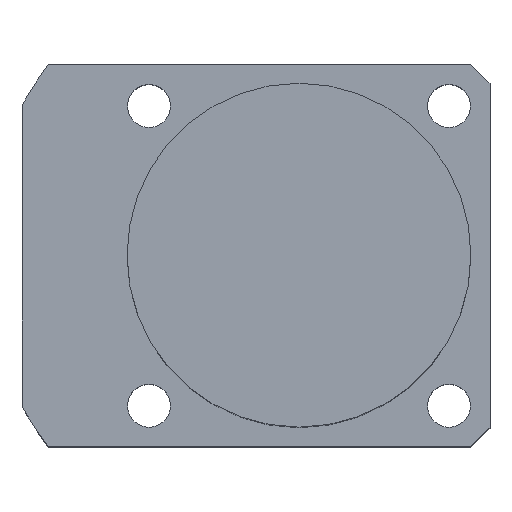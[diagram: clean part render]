
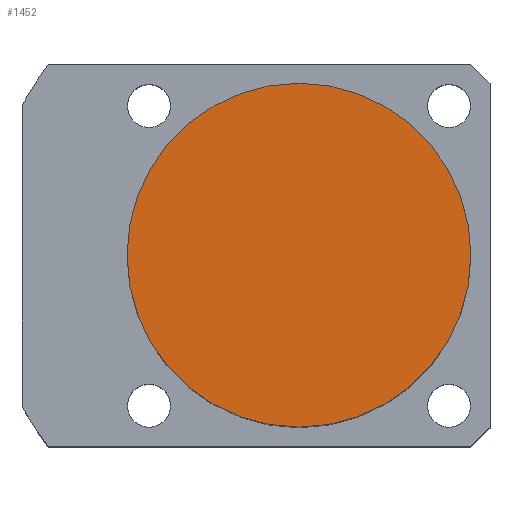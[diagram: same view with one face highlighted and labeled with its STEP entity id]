
A CAD part, top view. The second image highlights one B-rep face of the part: STEP entity #1452.
In plain terms, the highlighted planar face has unit normal (0, 0, 1).
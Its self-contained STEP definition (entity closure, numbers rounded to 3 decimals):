
#1394=CARTESIAN_POINT('',(-0.0,18.0,48.5));
#1395=VERTEX_POINT('',#1394);
#1402=CARTESIAN_POINT('',(18.0,0.0,48.5));
#1403=VERTEX_POINT('',#1402);
#1404=CARTESIAN_POINT('',(0.0,0.0,48.5));
#1405=DIRECTION('',(0.0,0.0,1.0));
#1406=DIRECTION('',(1.0,0.0,0.0));
#1407=AXIS2_PLACEMENT_3D('',#1404,#1405,#1406);
#1408=CIRCLE('',#1407,18.0);
#1409=EDGE_CURVE('no 1917',#1403,#1395,#1408,.T.);
#1411=CARTESIAN_POINT('',(-0.0,-18.0,48.5));
#1412=VERTEX_POINT('',#1411);
#1413=CARTESIAN_POINT('',(0.0,0.0,48.5));
#1414=DIRECTION('',(0.0,0.0,1.0));
#1415=DIRECTION('',(1.0,0.0,0.0));
#1416=AXIS2_PLACEMENT_3D('',#1413,#1414,#1415);
#1417=CIRCLE('',#1416,18.0);
#1418=EDGE_CURVE('no 1923',#1412,#1403,#1417,.T.);
#1436=ORIENTED_EDGE('',*,*,#1409,.T.);
#1437=CARTESIAN_POINT('',(0.0,0.0,48.5));
#1438=DIRECTION('',(0.0,0.0,1.0));
#1439=DIRECTION('',(1.0,0.0,0.0));
#1440=AXIS2_PLACEMENT_3D('',#1437,#1438,#1439);
#1441=CIRCLE('',#1440,18.0);
#1442=EDGE_CURVE('no 1940',#1395,#1412,#1441,.T.);
#1443=ORIENTED_EDGE('',*,*,#1442,.T.);
#1444=ORIENTED_EDGE('',*,*,#1418,.T.);
#1445=EDGE_LOOP('',(#1436,#1443,#1444));
#1446=FACE_OUTER_BOUND('',#1445,.T.);
#1447=CARTESIAN_POINT('',(0.0,0.0,48.5));
#1448=DIRECTION('',(0.0,0.0,1.0));
#1449=DIRECTION('',(1.0,0.0,0.0));
#1450=AXIS2_PLACEMENT_3D('',#1447,#1448,#1449);
#1451=PLANE('',#1450);
#1452=ADVANCED_FACE('no 1933',(#1446),#1451,.T.);
